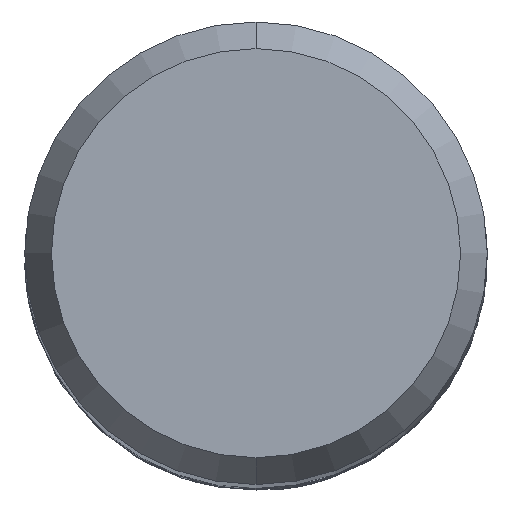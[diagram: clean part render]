
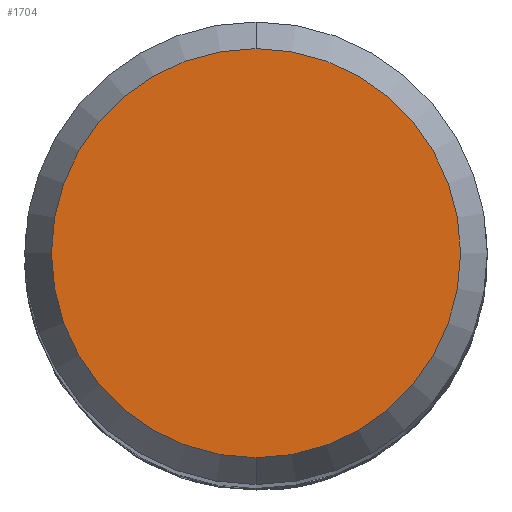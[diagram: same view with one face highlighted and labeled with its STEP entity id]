
A CAD part, top view. The second image highlights one B-rep face of the part: STEP entity #1704.
In plain terms, the highlighted planar face has unit normal (0, 0, 1).
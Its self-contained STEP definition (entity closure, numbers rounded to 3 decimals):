
#774=VERTEX_POINT('',#2197);
#1704=ADVANCED_FACE('',(#3208),#3209,.T.);
#1764=EDGE_CURVE('',#1908,#774,#3271,.T.);
#1894=EDGE_CURVE('',#774,#1908,#3414,.T.);
#1908=VERTEX_POINT('',#3429);
#2197=CARTESIAN_POINT('',(0.0,3.538,0.0));
#3208=FACE_OUTER_BOUND('',#14713,.T.);
#3209=PLANE('',#14714);
#3271=CIRCLE('',#15068,3.538);
#3414=CIRCLE('',#16654,3.538);
#3429=CARTESIAN_POINT('',(0.,-3.538,0.0));
#14713=EDGE_LOOP('',(#20123,#20124));
#14714=AXIS2_PLACEMENT_3D('',#20125,#20126,#20127);
#15068=AXIS2_PLACEMENT_3D('',#20149,#20150,#20151);
#16654=AXIS2_PLACEMENT_3D('',#20312,#20313,#20314);
#20123=ORIENTED_EDGE('',*,*,#1894,.F.);
#20124=ORIENTED_EDGE('',*,*,#1764,.F.);
#20125=CARTESIAN_POINT('',(0.0,1.769,0.0));
#20126=DIRECTION('',(-0.0,0.0,1.0));
#20127=DIRECTION('',(0.0,-1.0,0.0));
#20149=CARTESIAN_POINT('',(0.0,0.0,0.0));
#20150=DIRECTION('',(0.0,0.0,-1.0));
#20151=DIRECTION('',(0.0,1.0,0.0));
#20312=CARTESIAN_POINT('',(0.0,0.0,0.0));
#20313=DIRECTION('',(0.0,0.0,-1.0));
#20314=DIRECTION('',(0.0,1.0,0.0));
